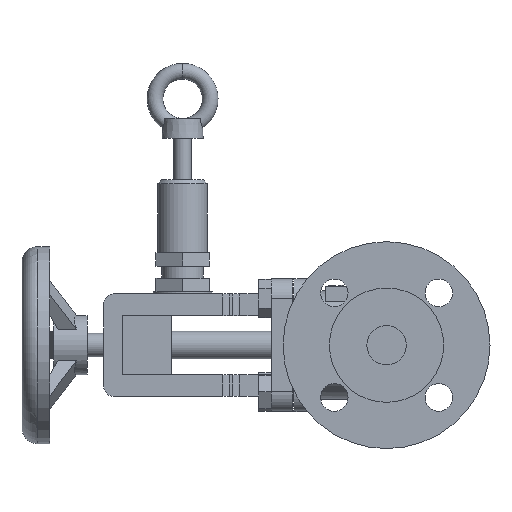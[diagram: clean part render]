
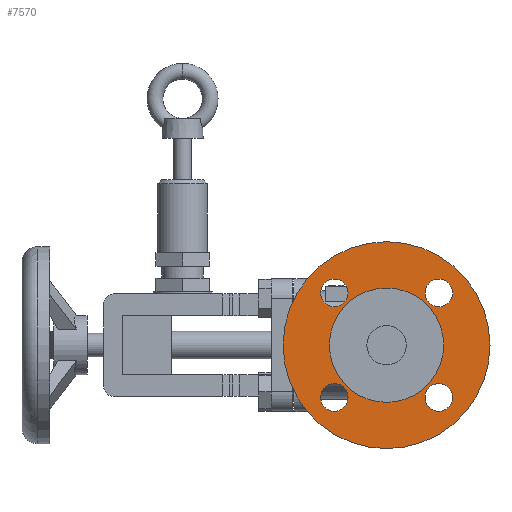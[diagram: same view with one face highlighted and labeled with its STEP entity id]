
A CAD part, left-side view. The second image highlights one B-rep face of the part: STEP entity #7570.
In plain terms, the highlighted planar face has unit normal (-1, 0, 0).
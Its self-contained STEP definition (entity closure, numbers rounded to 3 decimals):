
#1617=FACE_BOUND('',#2691,.T.);
#1618=FACE_BOUND('',#2692,.T.);
#1619=FACE_BOUND('',#2693,.T.);
#1620=FACE_BOUND('',#2694,.T.);
#1621=FACE_BOUND('',#2695,.T.);
#1873=PLANE('',#8089);
#2255=FACE_OUTER_BOUND('',#2690,.T.);
#2690=EDGE_LOOP('',(#6730));
#2691=EDGE_LOOP('',(#6731));
#2692=EDGE_LOOP('',(#6732));
#2693=EDGE_LOOP('',(#6733));
#2694=EDGE_LOOP('',(#6734));
#2695=EDGE_LOOP('',(#6735));
#3006=CIRCLE('',#8016,52.5);
#3009=CIRCLE('',#8020,7.);
#3011=CIRCLE('',#8023,7.);
#3013=CIRCLE('',#8026,7.);
#3015=CIRCLE('',#8029,7.);
#3016=CIRCLE('',#8031,29.);
#3654=VERTEX_POINT('',#12939);
#3657=VERTEX_POINT('',#12947);
#3659=VERTEX_POINT('',#12953);
#3661=VERTEX_POINT('',#12959);
#3663=VERTEX_POINT('',#12965);
#3664=VERTEX_POINT('',#12969);
#4633=EDGE_CURVE('',#3654,#3654,#3006,.T.);
#4638=EDGE_CURVE('',#3657,#3657,#3009,.T.);
#4641=EDGE_CURVE('',#3659,#3659,#3011,.T.);
#4644=EDGE_CURVE('',#3661,#3661,#3013,.T.);
#4647=EDGE_CURVE('',#3663,#3663,#3015,.T.);
#4648=EDGE_CURVE('',#3664,#3664,#3016,.T.);
#6730=ORIENTED_EDGE('',*,*,#4633,.F.);
#6731=ORIENTED_EDGE('',*,*,#4641,.F.);
#6732=ORIENTED_EDGE('',*,*,#4644,.F.);
#6733=ORIENTED_EDGE('',*,*,#4647,.F.);
#6734=ORIENTED_EDGE('',*,*,#4638,.F.);
#6735=ORIENTED_EDGE('',*,*,#4648,.F.);
#7570=ADVANCED_FACE('',(#2255,#1617,#1618,#1619,#1620,#1621),#1873,.F.);
#8016=AXIS2_PLACEMENT_3D('',#12940,#9541,#9542);
#8020=AXIS2_PLACEMENT_3D('',#12949,#9551,#9552);
#8023=AXIS2_PLACEMENT_3D('',#12955,#9558,#9559);
#8026=AXIS2_PLACEMENT_3D('',#12961,#9565,#9566);
#8029=AXIS2_PLACEMENT_3D('',#12967,#9572,#9573);
#8031=AXIS2_PLACEMENT_3D('',#12970,#9576,#9577);
#8089=AXIS2_PLACEMENT_3D('',#13136,#9760,#9761);
#9541=DIRECTION('center_axis',(1.,0.,0.));
#9542=DIRECTION('ref_axis',(0.,0.,-1.));
#9551=DIRECTION('center_axis',(-1.,0.,0.));
#9552=DIRECTION('ref_axis',(0.,0.,-1.));
#9558=DIRECTION('center_axis',(-1.,0.,0.));
#9559=DIRECTION('ref_axis',(0.,0.,-1.));
#9565=DIRECTION('center_axis',(-1.,0.,0.));
#9566=DIRECTION('ref_axis',(0.,0.,-1.));
#9572=DIRECTION('center_axis',(-1.,0.,0.));
#9573=DIRECTION('ref_axis',(0.,0.,-1.));
#9576=DIRECTION('center_axis',(-1.,0.,0.));
#9577=DIRECTION('ref_axis',(0.,1.,0.));
#9760=DIRECTION('center_axis',(1.,0.,0.));
#9761=DIRECTION('ref_axis',(0.,0.,-1.));
#12939=CARTESIAN_POINT('',(-78.907,-58.743,7.25));
#12940=CARTESIAN_POINT('Origin',(-78.907,-58.743,-45.25));
#12947=CARTESIAN_POINT('',(-78.907,-32.227,-64.767));
#12949=CARTESIAN_POINT('Origin',(-78.907,-32.227,-71.767));
#12953=CARTESIAN_POINT('',(-78.907,-85.26,-64.767));
#12955=CARTESIAN_POINT('Origin',(-78.907,-85.26,-71.767));
#12959=CARTESIAN_POINT('',(-78.907,-85.26,-11.733));
#12961=CARTESIAN_POINT('Origin',(-78.907,-85.26,-18.733));
#12965=CARTESIAN_POINT('',(-78.907,-32.227,-11.733));
#12967=CARTESIAN_POINT('Origin',(-78.907,-32.227,-18.733));
#12969=CARTESIAN_POINT('',(-78.907,-87.743,-45.25));
#12970=CARTESIAN_POINT('Origin',(-78.907,-58.743,-45.25));
#13136=CARTESIAN_POINT('Origin',(-78.907,-17.993,-45.25));
